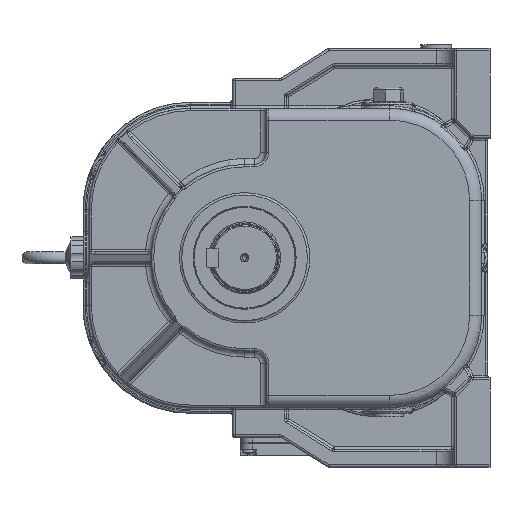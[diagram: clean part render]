
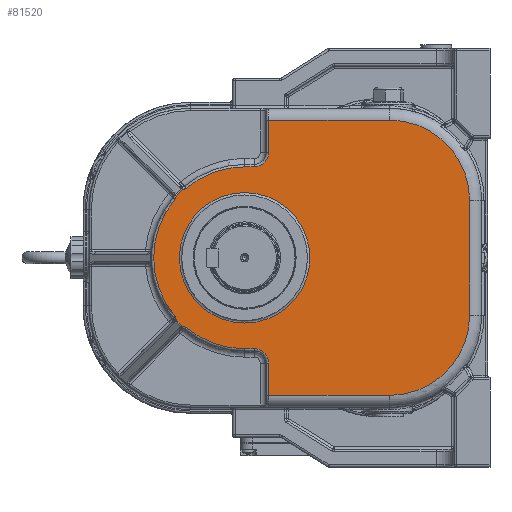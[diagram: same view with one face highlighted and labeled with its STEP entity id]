
A CAD part, left-side view. The second image highlights one B-rep face of the part: STEP entity #81520.
In plain terms, the highlighted planar face has unit normal (-1, 0, 0).
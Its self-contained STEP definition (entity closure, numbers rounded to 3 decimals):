
#2014=FACE_BOUND('',#25274,.T.);
#3451=PLANE('',#90077);
#10274=LINE('',#193227,#15089);
#10282=LINE('',#193287,#15097);
#10299=LINE('',#193412,#15114);
#10323=LINE('',#193913,#15138);
#10325=LINE('',#193922,#15140);
#10326=LINE('',#193927,#15141);
#10328=LINE('',#193939,#15143);
#15089=VECTOR('',#108965,10.);
#15097=VECTOR('',#108997,10.);
#15114=VECTOR('',#109062,10.);
#15138=VECTOR('',#109242,10.);
#15140=VECTOR('',#109254,10.);
#15141=VECTOR('',#109259,10.);
#15143=VECTOR('',#109273,10.);
#20280=FACE_OUTER_BOUND('',#25273,.T.);
#25273=EDGE_LOOP('',(#73952,#73953,#73954,#73955,#73956,#73957,#73958,#73959,
#73960,#73961,#73962,#73963,#73964,#73965,#73966,#73967,#73968,#73969,#73970,
#73971,#73972,#73973));
#25274=EDGE_LOOP('',(#73974));
#28808=CIRCLE('',#88948,67.);
#28872=CIRCLE('',#89043,54.5);
#28880=CIRCLE('',#89052,4.);
#28883=CIRCLE('',#89056,76.);
#28887=CIRCLE('',#89062,12.);
#28890=CIRCLE('',#89068,12.);
#28894=CIRCLE('',#89074,76.);
#28897=CIRCLE('',#89078,4.);
#28902=CIRCLE('',#89084,4.);
#28905=CIRCLE('',#89088,76.);
#28908=CIRCLE('',#89092,4.);
#29061=CIRCLE('',#89371,67.);
#31349=B_SPLINE_CURVE_WITH_KNOTS('',3,(#193836,#193837,#193838,#193839),
 .UNSPECIFIED.,.F.,.F.,(4,4),(-0.361,-0.269),
 .UNSPECIFIED.);
#31350=B_SPLINE_CURVE_WITH_KNOTS('',3,(#193859,#193860,#193861,#193862),
 .UNSPECIFIED.,.F.,.F.,(4,4),(-0.578,0.),.UNSPECIFIED.);
#31352=B_SPLINE_CURVE_WITH_KNOTS('',3,(#193886,#193887,#193888,#193889),
 .UNSPECIFIED.,.F.,.F.,(4,4),(-0.093,0.),.UNSPECIFIED.);
#31357=B_SPLINE_CURVE_WITH_KNOTS('',3,(#194022,#194023,#194024,#194025),
 .UNSPECIFIED.,.F.,.F.,(4,4),(0.269,1.032),
 .UNSPECIFIED.);
#37913=VERTEX_POINT('',#193224);
#37914=VERTEX_POINT('',#193226);
#37918=VERTEX_POINT('',#193239);
#37931=VERTEX_POINT('',#193284);
#37971=VERTEX_POINT('',#193408);
#37973=VERTEX_POINT('',#193411);
#38029=VERTEX_POINT('',#193807);
#38030=VERTEX_POINT('',#193826);
#38033=VERTEX_POINT('',#193834);
#38035=VERTEX_POINT('',#193857);
#38036=VERTEX_POINT('',#193883);
#38040=VERTEX_POINT('',#193899);
#38042=VERTEX_POINT('',#193905);
#38044=VERTEX_POINT('',#193911);
#38046=VERTEX_POINT('',#193917);
#38048=VERTEX_POINT('',#193925);
#38050=VERTEX_POINT('',#193931);
#38052=VERTEX_POINT('',#193937);
#38054=VERTEX_POINT('',#193943);
#38055=VERTEX_POINT('',#193948);
#38059=VERTEX_POINT('',#193979);
#38062=VERTEX_POINT('',#194031);
#38068=VERTEX_POINT('',#194057);
#49188=EDGE_CURVE('',#37913,#37914,#10274,.T.);
#49193=EDGE_CURVE('',#37914,#37918,#28808,.T.);
#49209=EDGE_CURVE('',#37918,#37931,#10282,.T.);
#49253=EDGE_CURVE('',#37971,#37973,#10299,.T.);
#49337=EDGE_CURVE('',#38029,#38029,#28872,.T.);
#49341=EDGE_CURVE('',#38033,#38030,#31349,.T.);
#49343=EDGE_CURVE('',#38035,#38033,#31350,.T.);
#49346=EDGE_CURVE('',#38036,#38035,#31352,.T.);
#49351=EDGE_CURVE('',#38040,#38036,#28880,.T.);
#49354=EDGE_CURVE('',#38042,#38040,#28883,.T.);
#49357=EDGE_CURVE('',#38044,#38042,#10323,.T.);
#49360=EDGE_CURVE('',#38046,#38044,#28887,.T.);
#49362=EDGE_CURVE('',#37931,#38046,#10325,.T.);
#49364=EDGE_CURVE('',#38048,#37971,#10326,.T.);
#49367=EDGE_CURVE('',#38050,#38048,#28890,.T.);
#49370=EDGE_CURVE('',#38052,#38050,#10328,.T.);
#49373=EDGE_CURVE('',#38054,#38052,#28894,.T.);
#49376=EDGE_CURVE('',#38055,#38054,#28897,.T.);
#49381=EDGE_CURVE('',#38059,#38055,#31357,.T.);
#49385=EDGE_CURVE('',#38062,#38059,#28902,.T.);
#49391=EDGE_CURVE('',#38068,#38062,#28905,.T.);
#49394=EDGE_CURVE('',#38030,#38068,#28908,.T.);
#49699=EDGE_CURVE('',#37973,#37913,#29061,.T.);
#73952=ORIENTED_EDGE('',*,*,#49341,.F.);
#73953=ORIENTED_EDGE('',*,*,#49343,.F.);
#73954=ORIENTED_EDGE('',*,*,#49346,.F.);
#73955=ORIENTED_EDGE('',*,*,#49351,.F.);
#73956=ORIENTED_EDGE('',*,*,#49354,.F.);
#73957=ORIENTED_EDGE('',*,*,#49357,.F.);
#73958=ORIENTED_EDGE('',*,*,#49360,.F.);
#73959=ORIENTED_EDGE('',*,*,#49362,.F.);
#73960=ORIENTED_EDGE('',*,*,#49209,.F.);
#73961=ORIENTED_EDGE('',*,*,#49193,.F.);
#73962=ORIENTED_EDGE('',*,*,#49188,.F.);
#73963=ORIENTED_EDGE('',*,*,#49699,.F.);
#73964=ORIENTED_EDGE('',*,*,#49253,.F.);
#73965=ORIENTED_EDGE('',*,*,#49364,.F.);
#73966=ORIENTED_EDGE('',*,*,#49367,.F.);
#73967=ORIENTED_EDGE('',*,*,#49370,.F.);
#73968=ORIENTED_EDGE('',*,*,#49373,.F.);
#73969=ORIENTED_EDGE('',*,*,#49376,.F.);
#73970=ORIENTED_EDGE('',*,*,#49381,.F.);
#73971=ORIENTED_EDGE('',*,*,#49385,.F.);
#73972=ORIENTED_EDGE('',*,*,#49391,.F.);
#73973=ORIENTED_EDGE('',*,*,#49394,.F.);
#73974=ORIENTED_EDGE('',*,*,#49337,.F.);
#81520=ADVANCED_FACE('',(#20280,#2014),#3451,.F.);
#88948=AXIS2_PLACEMENT_3D('',#193240,#108973,#108974);
#89043=AXIS2_PLACEMENT_3D('',#193809,#109209,#109210);
#89052=AXIS2_PLACEMENT_3D('',#193901,#109227,#109228);
#89056=AXIS2_PLACEMENT_3D('',#193907,#109235,#109236);
#89062=AXIS2_PLACEMENT_3D('',#193919,#109249,#109250);
#89068=AXIS2_PLACEMENT_3D('',#193933,#109265,#109266);
#89074=AXIS2_PLACEMENT_3D('',#193945,#109279,#109280);
#89078=AXIS2_PLACEMENT_3D('',#193951,#109287,#109288);
#89084=AXIS2_PLACEMENT_3D('',#194033,#109299,#109300);
#89088=AXIS2_PLACEMENT_3D('',#194059,#109307,#109308);
#89092=AXIS2_PLACEMENT_3D('',#194064,#109315,#109316);
#89371=AXIS2_PLACEMENT_3D('',#195888,#109958,#109959);
#90077=AXIS2_PLACEMENT_3D('',#200464,#111619,#111620);
#108965=DIRECTION('',(0.,0.,-1.));
#108973=DIRECTION('center_axis',(1.,0.,0.));
#108974=DIRECTION('ref_axis',(0.,-0.707,-0.707));
#108997=DIRECTION('',(0.,1.,0.));
#109062=DIRECTION('',(0.,-1.,0.));
#109209=DIRECTION('center_axis',(-1.,0.,0.));
#109210=DIRECTION('ref_axis',(0.,0.,
-1.));
#109227=DIRECTION('center_axis',(-1.,0.,0.));
#109228=DIRECTION('ref_axis',(0.,0.643,-0.766));
#109235=DIRECTION('center_axis',(1.,0.,0.));
#109236=DIRECTION('ref_axis',(0.,0.412,-0.911));
#109242=DIRECTION('',(0.,1.,0.));
#109249=DIRECTION('center_axis',(-1.,0.,0.));
#109250=DIRECTION('ref_axis',(0.,-0.707,
0.707));
#109254=DIRECTION('',(0.,0.,1.));
#109259=DIRECTION('',(0.,0.,1.));
#109265=DIRECTION('center_axis',(-1.,0.,0.));
#109266=DIRECTION('ref_axis',(0.,-0.707,-0.707));
#109273=DIRECTION('',(0.,-1.,0.));
#109279=DIRECTION('center_axis',(1.,0.,0.));
#109280=DIRECTION('ref_axis',(0.,0.342,0.94));
#109287=DIRECTION('center_axis',(-1.,0.,0.));
#109288=DIRECTION('ref_axis',(0.,-0.522,-0.853));
#109299=DIRECTION('center_axis',(-1.,0.,0.));
#109300=DIRECTION('ref_axis',(0.,0.766,0.643));
#109307=DIRECTION('center_axis',(1.,0.,0.));
#109308=DIRECTION('ref_axis',(0.,0.997,-0.075));
#109315=DIRECTION('center_axis',(-1.,0.,0.));
#109316=DIRECTION('ref_axis',(0.,0.766,-0.643));
#109958=DIRECTION('center_axis',(1.,0.,0.));
#109959=DIRECTION('ref_axis',(0.,-0.707,
0.707));
#111619=DIRECTION('center_axis',(1.,0.,0.));
#111620=DIRECTION('ref_axis',(0.,0.,
-1.));
#193224=CARTESIAN_POINT('',(-179.,-188.,48.));
#193226=CARTESIAN_POINT('',(-179.,-188.,-48.));
#193227=CARTESIAN_POINT('',(-179.,-188.,-24.));
#193239=CARTESIAN_POINT('',(-179.,-121.,-115.));
#193240=CARTESIAN_POINT('Origin',(-179.,-121.,-48.));
#193284=CARTESIAN_POINT('',(-179.,-20.,-115.));
#193287=CARTESIAN_POINT('',(-179.,-13.288,-115.));
#193408=CARTESIAN_POINT('',(-179.,-20.,115.));
#193411=CARTESIAN_POINT('',(-179.,-121.,115.));
#193412=CARTESIAN_POINT('',(-179.,-96.288,115.));
#193807=CARTESIAN_POINT('',(-179.,0.,54.5));
#193809=CARTESIAN_POINT('Origin',(-179.,0.,0.));
#193826=CARTESIAN_POINT('',(-179.,57.339,-51.948));
#193834=CARTESIAN_POINT('',(-179.,56.691,-52.596));
#193836=CARTESIAN_POINT('Ctrl Pts',(-179.,56.691,-52.596));
#193837=CARTESIAN_POINT('Ctrl Pts',(-179.,56.907,-52.38));
#193838=CARTESIAN_POINT('Ctrl Pts',(-179.,57.123,-52.164));
#193839=CARTESIAN_POINT('Ctrl Pts',(-179.,57.339,-51.948));
#193857=CARTESIAN_POINT('',(-179.,52.603,-56.681));
#193859=CARTESIAN_POINT('Ctrl Pts',(-179.,52.603,-56.681));
#193860=CARTESIAN_POINT('Ctrl Pts',(-179.,53.966,-55.319));
#193861=CARTESIAN_POINT('Ctrl Pts',(-179.,55.328,-53.958));
#193862=CARTESIAN_POINT('Ctrl Pts',(-179.,56.691,-52.596));
#193883=CARTESIAN_POINT('',(-179.,51.945,-57.338));
#193886=CARTESIAN_POINT('Ctrl Pts',(-179.,51.945,-57.338));
#193887=CARTESIAN_POINT('Ctrl Pts',(-179.,52.165,-57.119));
#193888=CARTESIAN_POINT('Ctrl Pts',(-179.,52.384,-56.9));
#193889=CARTESIAN_POINT('Ctrl Pts',(-179.,52.603,-56.681));
#193899=CARTESIAN_POINT('',(-179.,48.832,-58.236));
#193901=CARTESIAN_POINT('Origin',(-179.,51.402,-61.301));
#193905=CARTESIAN_POINT('',(-179.,0.,-76.));
#193907=CARTESIAN_POINT('Origin',(-179.,0.,0.));
#193911=CARTESIAN_POINT('',(-179.,-8.,-76.));
#193913=CARTESIAN_POINT('',(-179.,-35.788,-76.));
#193917=CARTESIAN_POINT('',(-179.,-20.,-88.));
#193919=CARTESIAN_POINT('Origin',(-179.,-8.,-88.));
#193922=CARTESIAN_POINT('',(-179.,-20.,-39.));
#193925=CARTESIAN_POINT('',(-179.,-20.,88.));
#193927=CARTESIAN_POINT('',(-179.,-20.,62.5));
#193931=CARTESIAN_POINT('',(-179.,-8.,76.));
#193933=CARTESIAN_POINT('Origin',(-179.,-8.,88.));
#193937=CARTESIAN_POINT('',(-179.,0.,76.));
#193939=CARTESIAN_POINT('',(-179.,-44.788,76.));
#193943=CARTESIAN_POINT('',(-179.,48.832,58.236));
#193945=CARTESIAN_POINT('Origin',(-179.,0.,0.));
#193948=CARTESIAN_POINT('',(-179.,51.945,57.338));
#193951=CARTESIAN_POINT('Origin',(-179.,51.402,61.301));
#193979=CARTESIAN_POINT('',(-179.,57.339,51.948));
#194022=CARTESIAN_POINT('Ctrl Pts',(-179.,57.339,51.948));
#194023=CARTESIAN_POINT('Ctrl Pts',(-179.,55.541,53.745));
#194024=CARTESIAN_POINT('Ctrl Pts',(-179.,53.743,55.542));
#194025=CARTESIAN_POINT('Ctrl Pts',(-179.,51.945,57.338));
#194031=CARTESIAN_POINT('',(-179.,58.236,48.832));
#194033=CARTESIAN_POINT('Origin',(-179.,61.301,51.402));
#194057=CARTESIAN_POINT('',(-179.,58.236,-48.832));
#194059=CARTESIAN_POINT('Origin',(-179.,0.,0.));
#194064=CARTESIAN_POINT('Origin',(-179.,61.301,-51.402));
#195888=CARTESIAN_POINT('Origin',(-179.,-121.,48.));
#200464=CARTESIAN_POINT('Origin',(-179.,-71.576,0.));
